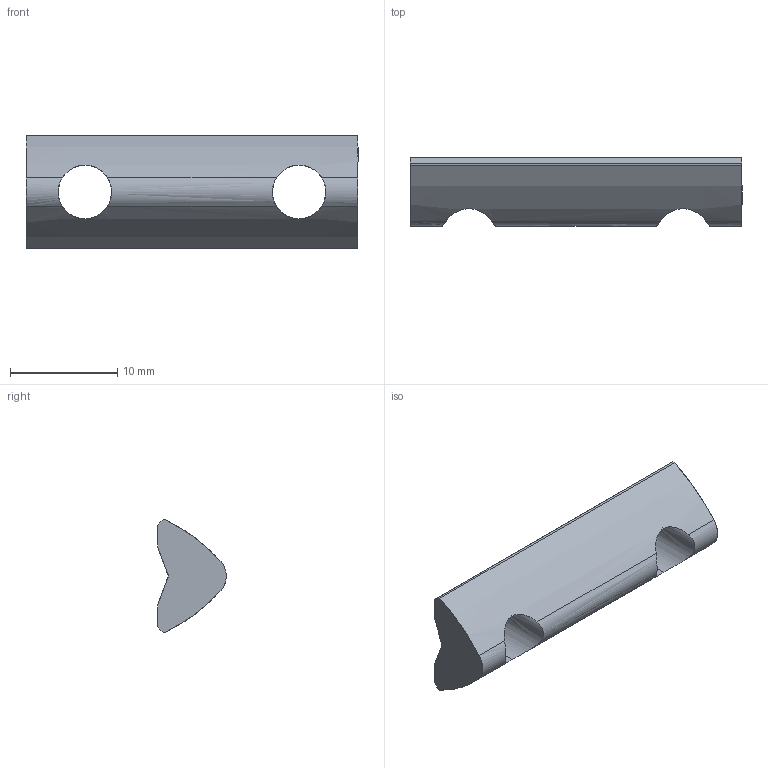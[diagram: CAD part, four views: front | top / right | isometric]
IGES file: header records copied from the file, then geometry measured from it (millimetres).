
Start section: SolidWorks IGES file using analytic representation for surfaces
Global section: file name: C:\Documents and Settings\CAD53\デスクトップ\IGES\N01914-105-0.IGS; native system: SolidWorks 2005 by SolidWorks Corporation; preprocessor: SolidWorks 2005 by SolidWorks Corporation; author: CAD53; date: 070530.093626; units: millimetre
Bounding box: 31 x 6.4 x 10.5 mm (x, y, z)
Surface area: 1016.4 mm2 (no closed solid volume)
Topology: 0 solids, 0 shells, 19 faces, 336 edges, 336 vertices
Faces by surface type: bspline 10, revolution 9
